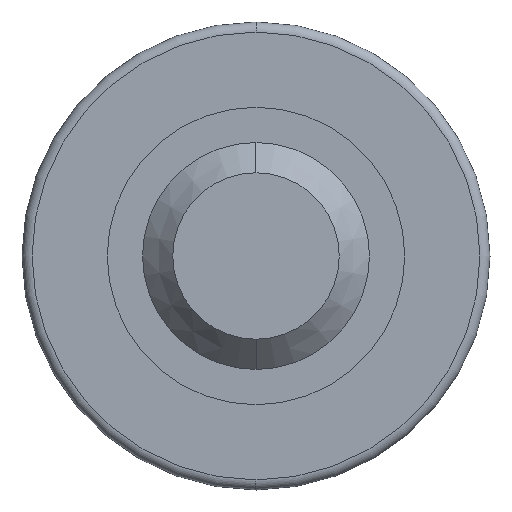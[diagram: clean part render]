
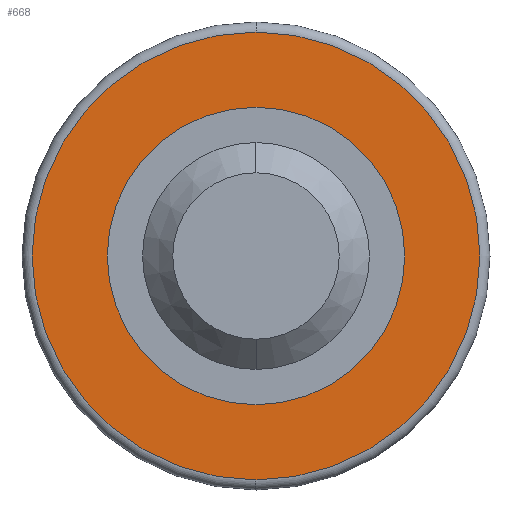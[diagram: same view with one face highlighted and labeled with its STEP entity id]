
A CAD part, left-side view. The second image highlights one B-rep face of the part: STEP entity #668.
In plain terms, the highlighted planar face has unit normal (-1, 0, 0).
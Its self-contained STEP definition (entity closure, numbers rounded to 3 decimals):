
#13 = CARTESIAN_POINT ( 'NONE',  ( 23.5, 0., -29.5 ) ) ;
#33 = EDGE_CURVE ( 'NONE', #371, #584, #618, .T. ) ;
#42 = CARTESIAN_POINT ( 'NONE',  ( 23.5, 0., -46.4 ) ) ;
#48 = DIRECTION ( 'NONE',  ( 0., 0., 1. ) ) ;
#66 = EDGE_LOOP ( 'NONE', ( #286, #600 ) ) ;
#69 = CARTESIAN_POINT ( 'NONE',  ( 23.5, 0., 0. ) ) ;
#81 = CARTESIAN_POINT ( 'NONE',  ( 23.5, 0., 0. ) ) ;
#88 = DIRECTION ( 'NONE',  ( -1., 0., 0. ) ) ;
#90 = PLANE ( 'NONE',  #361 ) ;
#119 = ORIENTED_EDGE ( 'NONE', *, *, #33, .T. ) ;
#128 = EDGE_CURVE ( 'NONE', #201, #511, #186, .T. ) ;
#169 = AXIS2_PLACEMENT_3D ( 'NONE', #81, #520, #48 ) ;
#178 = CIRCLE ( 'NONE', #441, 29.5 ) ;
#186 = CIRCLE ( 'NONE', #299, 29.5 ) ;
#201 = VERTEX_POINT ( 'NONE', #234 ) ;
#227 = EDGE_LOOP ( 'NONE', ( #677, #119 ) ) ;
#234 = CARTESIAN_POINT ( 'NONE',  ( 23.5, 0., 29.5 ) ) ;
#238 = CARTESIAN_POINT ( 'NONE',  ( 23.5, 0., 0. ) ) ;
#259 = EDGE_CURVE ( 'NONE', #584, #371, #380, .T. ) ;
#267 = FACE_BOUND ( 'NONE', #66, .T. ) ;
#286 = ORIENTED_EDGE ( 'NONE', *, *, #594, .T. ) ;
#289 = DIRECTION ( 'NONE',  ( 1., 0., 0. ) ) ;
#299 = AXIS2_PLACEMENT_3D ( 'NONE', #649, #327, #377 ) ;
#327 = DIRECTION ( 'NONE',  ( 1., 0., 0. ) ) ;
#361 = AXIS2_PLACEMENT_3D ( 'NONE', #42, #88, #515 ) ;
#371 = VERTEX_POINT ( 'NONE', #426 ) ;
#377 = DIRECTION ( 'NONE',  ( 0., 0., -1. ) ) ;
#380 = CIRCLE ( 'NONE', #169, 44.4 ) ;
#426 = CARTESIAN_POINT ( 'NONE',  ( 23.5, 0., -44.4 ) ) ;
#441 = AXIS2_PLACEMENT_3D ( 'NONE', #238, #289, #673 ) ;
#501 = CARTESIAN_POINT ( 'NONE',  ( 23.5, 0., 44.4 ) ) ;
#511 = VERTEX_POINT ( 'NONE', #13 ) ;
#515 = DIRECTION ( 'NONE',  ( 0., 0., 1. ) ) ;
#520 = DIRECTION ( 'NONE',  ( -1., 0., 0. ) ) ;
#529 = DIRECTION ( 'NONE',  ( -1., 0., 0. ) ) ;
#575 = FACE_OUTER_BOUND ( 'NONE', #227, .T. ) ;
#584 = VERTEX_POINT ( 'NONE', #501 ) ;
#589 = DIRECTION ( 'NONE',  ( 0., 0., 1. ) ) ;
#594 = EDGE_CURVE ( 'NONE', #511, #201, #178, .T. ) ;
#600 = ORIENTED_EDGE ( 'NONE', *, *, #128, .T. ) ;
#603 = AXIS2_PLACEMENT_3D ( 'NONE', #69, #529, #589 ) ;
#618 = CIRCLE ( 'NONE', #603, 44.4 ) ;
#649 = CARTESIAN_POINT ( 'NONE',  ( 23.5, 0., 0. ) ) ;
#668 = ADVANCED_FACE ( 'NONE', ( #575, #267 ), #90, .T. ) ;
#673 = DIRECTION ( 'NONE',  ( 0., 0., -1. ) ) ;
#677 = ORIENTED_EDGE ( 'NONE', *, *, #259, .T. ) ;
